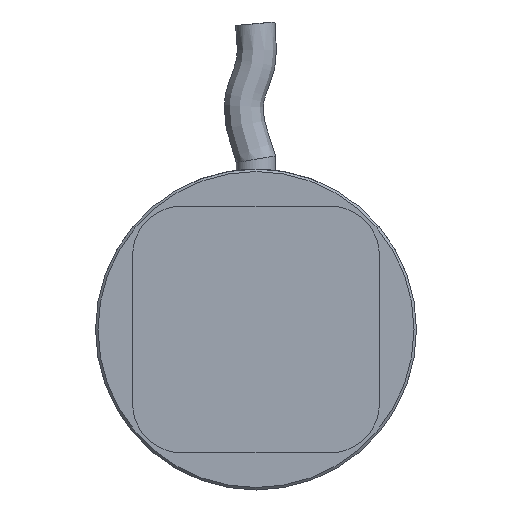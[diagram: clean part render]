
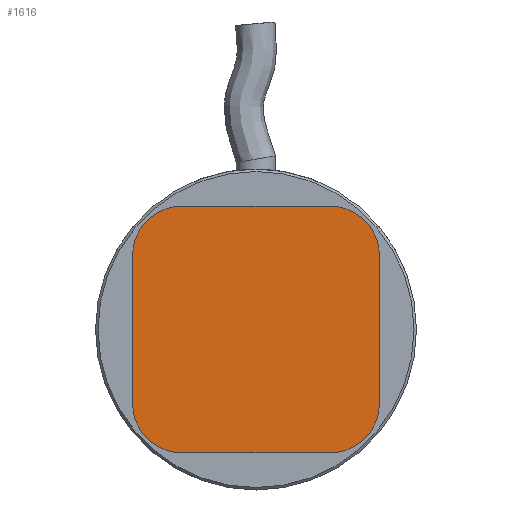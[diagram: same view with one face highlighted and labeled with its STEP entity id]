
A CAD part, left-side view. The second image highlights one B-rep face of the part: STEP entity #1616.
In plain terms, the highlighted planar face has unit normal (-1, 0, 0).
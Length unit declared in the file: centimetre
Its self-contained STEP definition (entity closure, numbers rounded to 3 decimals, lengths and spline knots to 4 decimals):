
#332=VECTOR('',#1832,1.);
#333=VECTOR('',#1835,1.);
#334=VECTOR('',#1838,1.);
#335=VECTOR('',#1841,1.);
#425=LINE('',#2179,#332);
#426=LINE('',#2183,#333);
#427=LINE('',#2187,#334);
#428=LINE('',#2191,#335);
#520=CIRCLE('',#1699,0.2);
#521=CIRCLE('',#1700,0.2);
#522=CIRCLE('',#1701,0.2);
#523=CIRCLE('',#1702,0.2);
#576=PLANE('',#1698);
#611=VERTEX_POINT('',#2177);
#612=VERTEX_POINT('',#2178);
#613=VERTEX_POINT('',#2180);
#614=VERTEX_POINT('',#2182);
#615=VERTEX_POINT('',#2184);
#616=VERTEX_POINT('',#2186);
#617=VERTEX_POINT('',#2188);
#618=VERTEX_POINT('',#2190);
#790=EDGE_CURVE('',#611,#612,#520,.T.);
#791=EDGE_CURVE('',#612,#613,#425,.T.);
#792=EDGE_CURVE('',#613,#614,#521,.T.);
#793=EDGE_CURVE('',#614,#615,#426,.T.);
#794=EDGE_CURVE('',#615,#616,#522,.T.);
#795=EDGE_CURVE('',#616,#617,#427,.T.);
#796=EDGE_CURVE('',#617,#618,#523,.T.);
#797=EDGE_CURVE('',#618,#611,#428,.T.);
#1004=ORIENTED_EDGE('',*,*,#790,.T.);
#1005=ORIENTED_EDGE('',*,*,#791,.T.);
#1006=ORIENTED_EDGE('',*,*,#792,.T.);
#1007=ORIENTED_EDGE('',*,*,#793,.T.);
#1008=ORIENTED_EDGE('',*,*,#794,.T.);
#1009=ORIENTED_EDGE('',*,*,#795,.T.);
#1010=ORIENTED_EDGE('',*,*,#796,.T.);
#1011=ORIENTED_EDGE('',*,*,#797,.T.);
#1432=EDGE_LOOP('',(#1004,#1005,#1006,#1007,#1008,#1009,#1010,#1011));
#1524=FACE_BOUND('',#1432,.T.);
#1616=ADVANCED_FACE('',(#1524),#576,.F.);
#1698=AXIS2_PLACEMENT_3D('',#2175,#1829,$);
#1699=AXIS2_PLACEMENT_3D('',#2176,#1830,#1831);
#1700=AXIS2_PLACEMENT_3D('',#2181,#1833,#1834);
#1701=AXIS2_PLACEMENT_3D('',#2185,#1836,#1837);
#1702=AXIS2_PLACEMENT_3D('',#2189,#1839,#1840);
#1829=DIRECTION('',(1.,0.,0.));
#1830=DIRECTION('',(-1.,0.,0.));
#1831=DIRECTION('',(0.,0.,0.2));
#1832=DIRECTION('',(0.,0.,-1.));
#1833=DIRECTION('',(-1.,0.,0.));
#1834=DIRECTION('',(0.,0.,0.2));
#1835=DIRECTION('',(0.,-1.,0.));
#1836=DIRECTION('',(-1.,0.,0.));
#1837=DIRECTION('',(0.,0.,0.2));
#1838=DIRECTION('',(0.,0.,1.));
#1839=DIRECTION('',(-1.,0.,0.));
#1840=DIRECTION('',(0.,0.,0.2));
#1841=DIRECTION('',(0.,1.,0.));
#2175=CARTESIAN_POINT('',(0.06,0.,0.));
#2176=CARTESIAN_POINT('',(0.06,0.3,0.3));
#2177=CARTESIAN_POINT('',(0.06,0.3,0.5));
#2178=CARTESIAN_POINT('',(0.06,0.5,0.3));
#2179=CARTESIAN_POINT('',(0.06,0.5,0.3));
#2180=CARTESIAN_POINT('',(0.06,0.5,-0.3));
#2181=CARTESIAN_POINT('',(0.06,0.3,-0.3));
#2182=CARTESIAN_POINT('',(0.06,0.3,-0.5));
#2183=CARTESIAN_POINT('',(0.06,0.3,-0.5));
#2184=CARTESIAN_POINT('',(0.06,-0.3,-0.5));
#2185=CARTESIAN_POINT('',(0.06,-0.3,-0.3));
#2186=CARTESIAN_POINT('',(0.06,-0.5,-0.3));
#2187=CARTESIAN_POINT('',(0.06,-0.5,-0.3));
#2188=CARTESIAN_POINT('',(0.06,-0.5,0.3));
#2189=CARTESIAN_POINT('',(0.06,-0.3,0.3));
#2190=CARTESIAN_POINT('',(0.06,-0.3,0.5));
#2191=CARTESIAN_POINT('',(0.06,-0.3,0.5));
